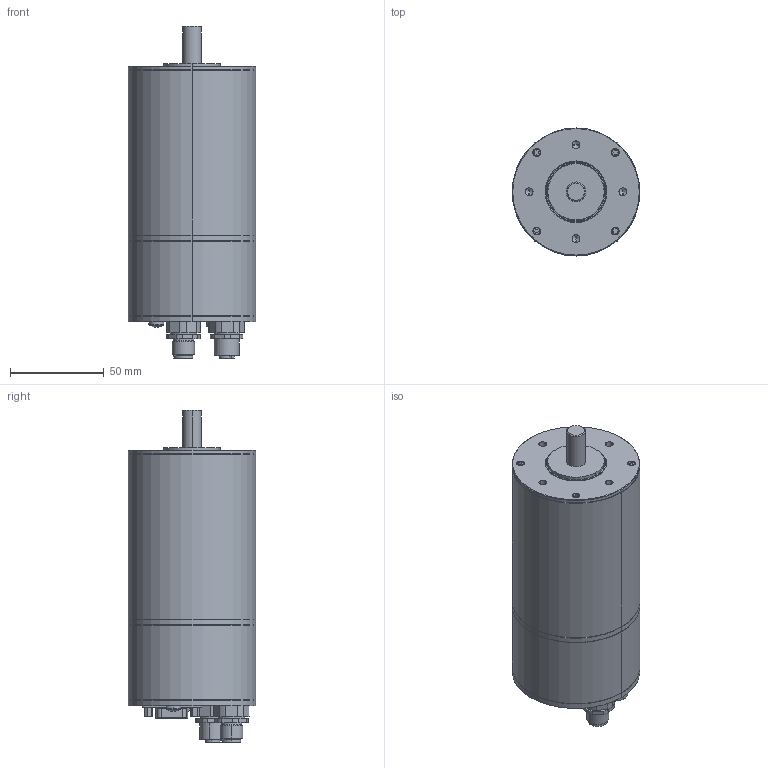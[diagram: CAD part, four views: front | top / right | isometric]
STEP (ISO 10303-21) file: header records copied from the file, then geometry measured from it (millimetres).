
FILE_DESCRIPTION (( 'STEP AP214' ), '1' );
FILE_NAME ('MSA 643.STEP', '2012-04-26T08:22:01', ( ' ' ), ( '' ), 'SwSTEP 2.0', 'SolidWorks 2010', '' );
FILE_SCHEMA (( 'AUTOMOTIVE_DESIGN' ));
Length unit declared in the file: millimetre
Products named in the file (8): 937201981; 940245001; MSA 643; blank-M12Stecker; 940245002; blank-M12Buchse; 9511200006_ISO 7045 - M4 x 6 - Z --- 6N
Assembly tree (8 placements, depth 2):
  MSA 643
    blank-M12Buchse
    MSA 643
    940245002  x2
    9511200006_ISO 7045 - M4 x 6 - Z --- 6N
    blank-M12Stecker
    940245001
    937201981
Bounding box: 68 x 68 x 176.9 mm (x, y, z)
Volume: 481812.8 mm3; surface area: 55048.9 mm2
Topology: 9 solids, 17 shells, 678 faces, 1581 edges, 960 vertices
Faces by surface type: cylinder 264, plane 223, cone 128, torus 33, sphere 30
Entity records: 21887 total; most frequent: DIRECTION 3434, CARTESIAN_POINT 3098, ORIENTED_EDGE 2858, EDGE_CURVE 1429, AXIS2_PLACEMENT_3D 1368, VERTEX_POINT 900, EDGE_LOOP 747, CIRCLE 705
